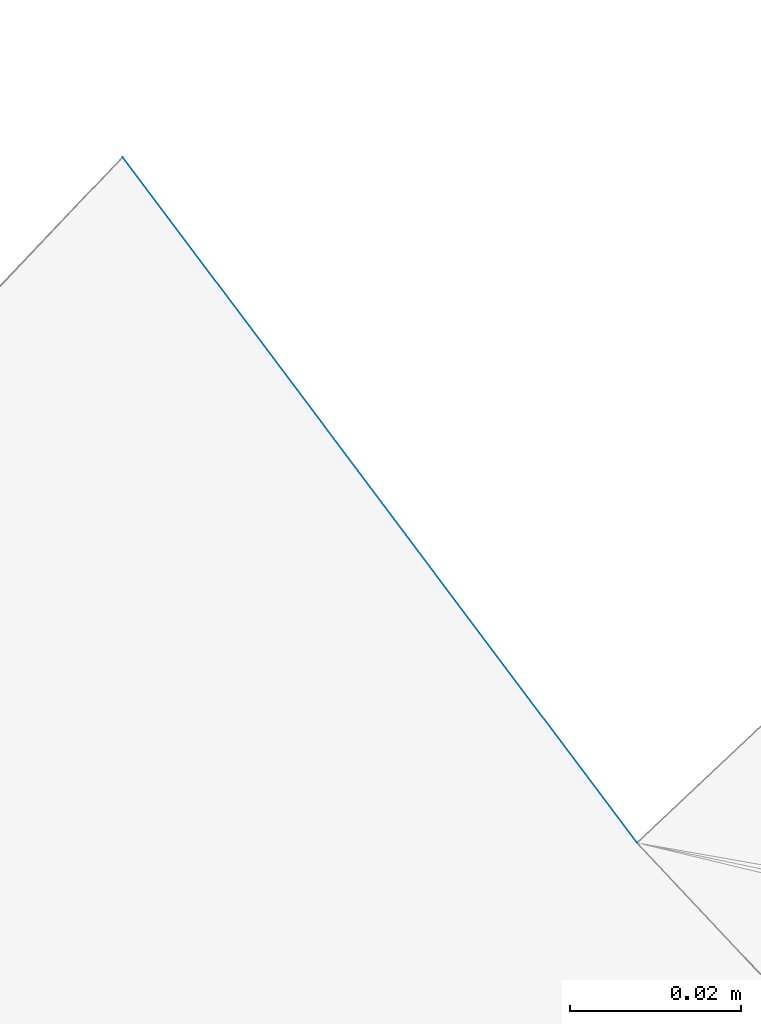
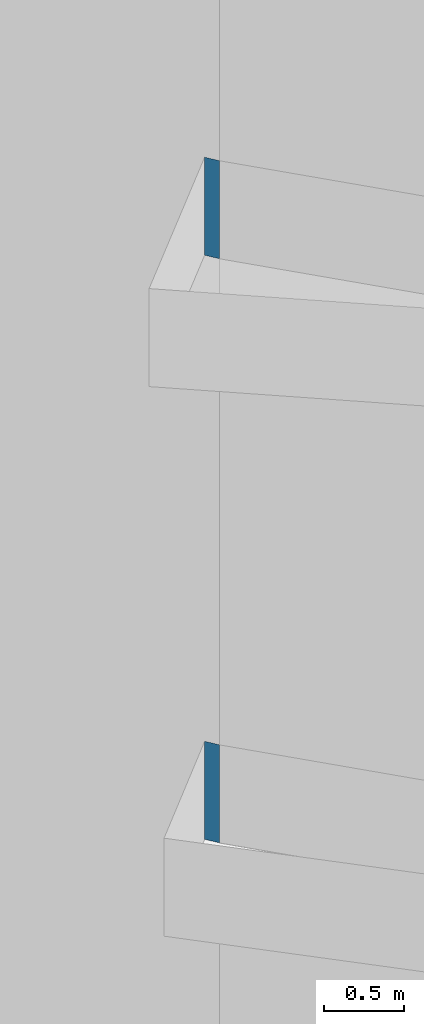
# Not in any storey, part 105 of 136: 4 walls.
"""IFC4 building model written with IfcOpenShell, lengths in metres."""

from ifc_helpers import new_model, entity, si_unit, converted_unit, frame, origin, place, context, subcontext, project, spatial, face_set, surface_model, element, save


model = new_model("IFC4")

# Units and contexts
model_context = context("Model", 3, precision=1e-05, world=origin())
body_context = subcontext(model_context, "Body", "Model", "MODEL_VIEW")
ifc_project = project(units=[converted_unit("PLANEANGLEUNIT", "DEGREE", entity("IfcRatioMeasure", 0.0174532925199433), si_unit("PLANEANGLEUNIT", "RADIAN"), dimensions=[0, 0, 0, 0, 0, 0, 0]), si_unit("AREAUNIT", "SQUARE_METRE"), si_unit("LENGTHUNIT", "METRE")], contexts=[model_context])

# Site, building
site_placement = place(None, origin())
site = spatial("IfcSite", under=ifc_project, at=site_placement, Name="_site")
building_placement = place(site_placement, origin())
building = spatial("IfcBuilding", under=site, at=building_placement, Name="_building")

# Walls
for number, where, name in (
    (1, (0.0, 0.0, 0.0), "Wall"),
    (2, (0.0, 0.0, 0.0), "Wall"),
):
    element("IfcWall", number, at=place(building_placement, frame(where)), inside=building, Name=name, PredefinedType="NOTDEFINED", context=body_context, shape_type="SurfaceModel", body=[
        surface_model("IfcFaceBasedSurfaceModel", [(24.07, 101.83, 43.37), (24.13, 101.75, 43.37), (24.13, 101.75, 44.12), (24.07, 101.83, 44.12)], [face_set([[[0, 1, 2, 3]]])]),
    ])
for number, where, name in (
    (3, (0.0, 0.0, 0.0), "Wall"),
    (4, (0.0, 0.0, 0.0), "Wall"),
):
    element("IfcWall", number, at=place(building_placement, frame(where)), inside=building, Name=name, PredefinedType="NOTDEFINED", context=body_context, shape_type="SurfaceModel", body=[
        surface_model("IfcFaceBasedSurfaceModel", [(24.07, 101.83, 47.84), (24.13, 101.75, 47.84), (24.13, 101.75, 48.59), (24.07, 101.83, 48.59)], [face_set([[[0, 1, 2, 3]]])]),
    ])

save(model, "model.ifc")
